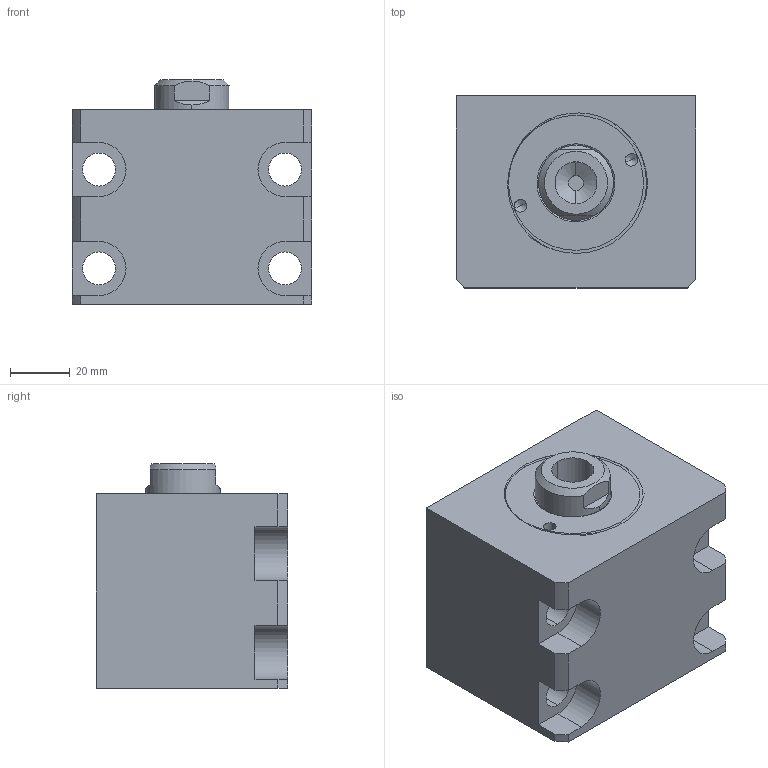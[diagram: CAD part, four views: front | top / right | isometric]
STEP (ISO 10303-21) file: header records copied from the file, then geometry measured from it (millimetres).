
FILE_DESCRIPTION (( 'STEP AP214' ), '1' );
FILE_NAME ('chtb-lam40x10n_asm.STEP', '2018-05-30T01:05:20', ( 'Windows' ), ( 'Microsoft' ), 'SwSTEP 2.0', 'SolidWorks 2015', '' );
FILE_SCHEMA (( 'AUTOMOTIVE_DESIGN' ));
Length unit declared in the file: millimetre
Products named in the file (4): CHTB-SD40X10NHSG; CHTB-SD40QG; CHTB-LAM40X10NBT; chtb-lam40x10n_asm
Assembly tree (3 placements, depth 2):
  chtb-lam40x10n_asm
    CHTB-LAM40X10NBT
    CHTB-SD40QG
    CHTB-SD40X10NHSG
Bounding box: 80 x 64 x 75 mm (x, y, z)
Volume: 287177.6 mm3; surface area: 65390.7 mm2
Topology: 3 solids, 3 shells, 143 faces, 391 edges, 260 vertices
Faces by surface type: cylinder 70, plane 38, bspline 14, torus 12, cone 9
Entity records: 9727 total; most frequent: CARTESIAN_POINT 6019, ORIENTED_EDGE 770, DIRECTION 698, EDGE_CURVE 385, AXIS2_PLACEMENT_3D 282, VERTEX_POINT 260, EDGE_LOOP 169, CIRCLE 147
